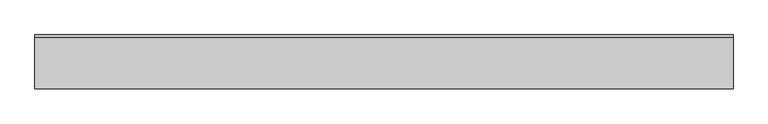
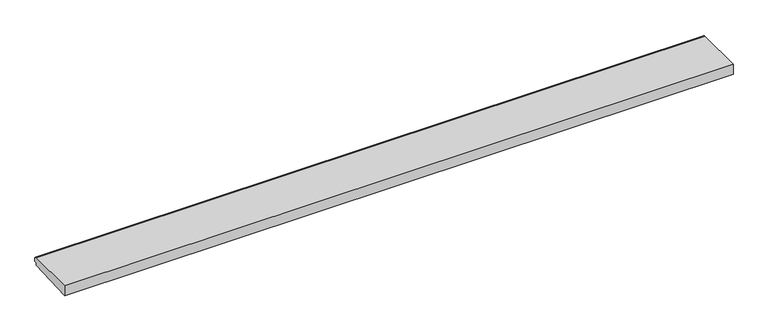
"""IFC4 building model written with IfcOpenShell, lengths in millimetres: proxy geometry, ARQ_BANCA_T3 : ARQ_BANCA_T3."""

from ifc_helpers import new_model, si_unit, point, frame, frame_2d, origin, place, context, project, spatial, polyline, circle_curve, trimmed, segment, composite_curve, outline, extrude, source, transform, mapped, element, save


def generic_models_8d675eae(model_context):
    return source(origin(), model_context, "Body", "SweptSolid", [
        extrude(outline(composite_curve([segment(polyline([(458.9887539, 322.2211934), (0.0, 302.6129318), (0.0, 400.0), (459.0, 399.921901)]), True, "CONTINUOUS"), segment(trimmed(circle_curve(frame_2d((459.0, 379.921901)), 20.0), [point((459.0, 399.921901))], [point((479.0, 379.921901))], False, "CARTESIAN"), True, "CONTINUOUS"), segment(polyline([(479.0, 379.921901), (479.0, 349.9219009), (458.9887539, 349.9219009), (458.9887539, 322.2211934)]), True, "CONTINUOUS")], self_intersect=False)), frame((-3104.9813973, 0.0, 0.0), z_axis=(1.0, 0.0, 0.0), x_axis=(0.0, 1.0, 0.0)), (0.0, 0.0, 1.0), 6209.9627946),
    ])


if __name__ == "__main__":
    model = new_model("IFC4")
    model_context = context("Model", 3, world=origin())
    ifc_project = project(units=[si_unit("LENGTHUNIT", "METRE", prefix="MILLI")], contexts=[model_context])
    site = spatial("IfcSite", under=ifc_project)
    building = spatial("IfcBuilding", under=site)
    placement = place(None, origin())
    generic_models_shape = generic_models_8d675eae(model_context)
    element("IfcBuildingElementProxy", 1, Name="ARQ_BANCA_T3 : ARQ_BANCA_T3", ObjectType="ARQ_BANCA_T3 : ARQ_BANCA_T3", at=placement, inside=building, context=model_context, shape_type="MappedRepresentation", body=[
        mapped(generic_models_shape, transform((0.0, 0.0, 0.0), x_axis=(1.0, 0.0, 0.0), y_axis=(0.0, 1.0, 0.0), z_axis=(0.0, 0.0, 1.0))),
    ])
    save(model, "model.ifc")
